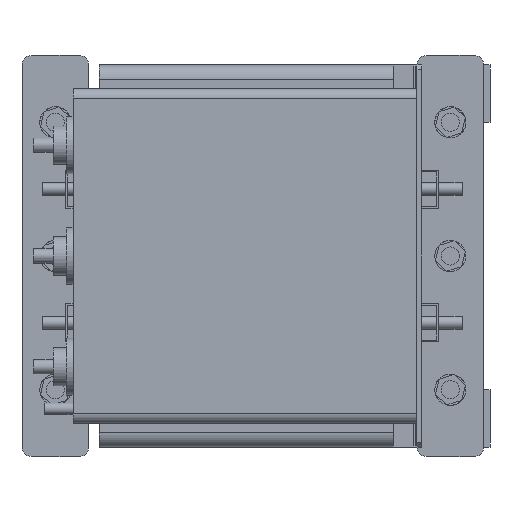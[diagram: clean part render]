
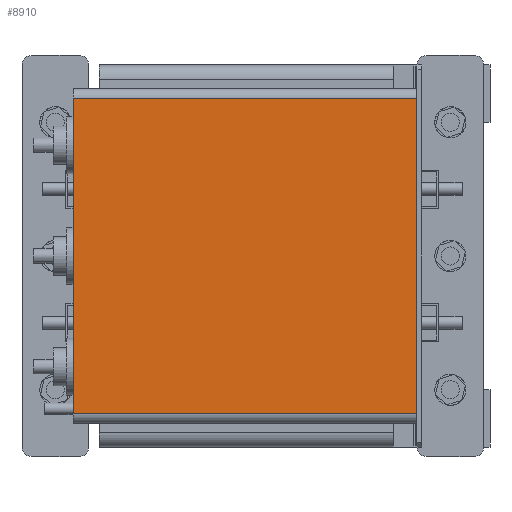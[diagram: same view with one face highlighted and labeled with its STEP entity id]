
A CAD part, left-side view. The second image highlights one B-rep face of the part: STEP entity #8910.
In plain terms, the highlighted planar face has unit normal (-1, 0, 0).
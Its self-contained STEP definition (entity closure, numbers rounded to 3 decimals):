
#397=PLANE('',#9735);
#923=FACE_OUTER_BOUND('',#1512,.T.);
#1512=EDGE_LOOP('',(#7305,#7306,#7307,#7308));
#2232=LINE('',#14028,#3185);
#2267=LINE('',#14120,#3220);
#2268=LINE('',#14123,#3221);
#2269=LINE('',#14124,#3222);
#3185=VECTOR('',#11504,10.);
#3220=VECTOR('',#11595,10.);
#3221=VECTOR('',#11598,10.);
#3222=VECTOR('',#11599,10.);
#4365=VERTEX_POINT('',#14025);
#4366=VERTEX_POINT('',#14027);
#4395=VERTEX_POINT('',#14118);
#4396=VERTEX_POINT('',#14122);
#5395=EDGE_CURVE('',#4365,#4366,#2232,.T.);
#5442=EDGE_CURVE('',#4365,#4395,#2267,.T.);
#5443=EDGE_CURVE('',#4396,#4395,#2268,.T.);
#5444=EDGE_CURVE('',#4366,#4396,#2269,.T.);
#7305=ORIENTED_EDGE('',*,*,#5395,.F.);
#7306=ORIENTED_EDGE('',*,*,#5442,.T.);
#7307=ORIENTED_EDGE('',*,*,#5443,.F.);
#7308=ORIENTED_EDGE('',*,*,#5444,.F.);
#8910=ADVANCED_FACE('',(#923),#397,.T.);
#9735=AXIS2_PLACEMENT_3D('',#14121,#11596,#11597);
#11504=DIRECTION('',(0.,0.,-1.));
#11595=DIRECTION('',(0.,1.,0.));
#11596=DIRECTION('center_axis',(-1.,0.,0.));
#11597=DIRECTION('ref_axis',(0.,0.,
1.));
#11598=DIRECTION('',(0.,0.,1.));
#11599=DIRECTION('',(0.,1.,0.));
#14025=CARTESIAN_POINT('',(-320.,-12.5,165.));
#14027=CARTESIAN_POINT('',(-320.,-12.5,-165.));
#14028=CARTESIAN_POINT('',(-320.,-12.5,17.5));
#14118=CARTESIAN_POINT('',(-320.,347.5,165.));
#14120=CARTESIAN_POINT('',(-320.,-12.5,165.));
#14121=CARTESIAN_POINT('Origin',(-320.,-12.5,-165.));
#14122=CARTESIAN_POINT('',(-320.,347.5,-165.));
#14123=CARTESIAN_POINT('',(-320.,347.5,-165.));
#14124=CARTESIAN_POINT('',(-320.,-12.5,-165.));
